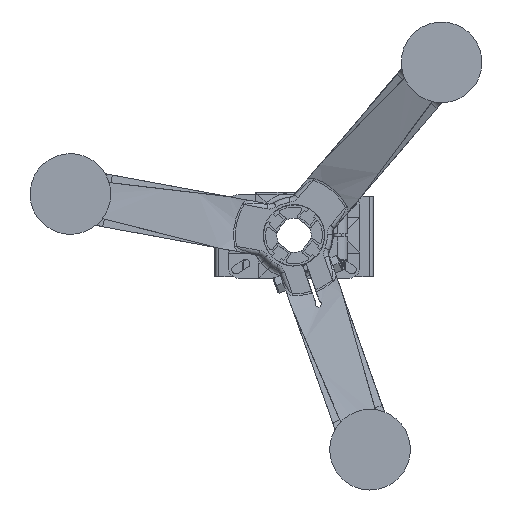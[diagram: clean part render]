
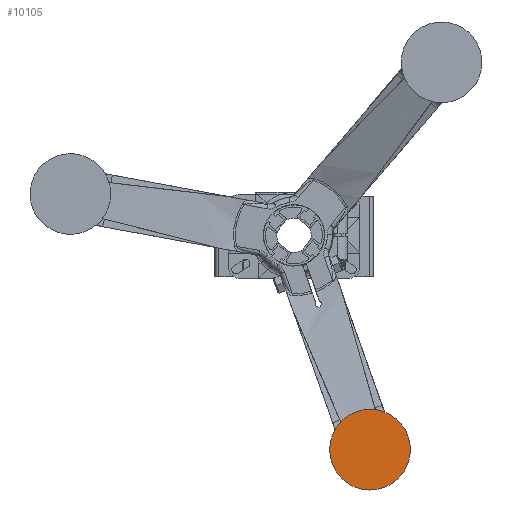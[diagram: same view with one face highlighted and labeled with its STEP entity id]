
A CAD part, front view. The second image highlights one B-rep face of the part: STEP entity #10105.
In plain terms, the highlighted planar face has unit normal (0, -1, 0).
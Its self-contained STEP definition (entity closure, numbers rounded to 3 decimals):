
#10066 = VERTEX_POINT ( 'NONE', #19405 ) ;
#10070 = EDGE_CURVE ( 'NONE', #10066, #10071, #19418, .T. ) ;
#10071 = VERTEX_POINT ( 'NONE', #19413 ) ;
#10104 = EDGE_CURVE ( 'NONE', #10071, #10066, #19652, .T. ) ;
#10105 = ADVANCED_FACE ( 'NONE', ( #19653 ), #19647, .F. ) ;
#10106 = EDGE_LOOP ( 'NONE', ( #10108, #10109 ) ) ;
#10108 = ORIENTED_EDGE ( 'NONE', *, *, #10104, .F. ) ;
#10109 = ORIENTED_EDGE ( 'NONE', *, *, #10070, .F. ) ;
#19405 = CARTESIAN_POINT ( 'NONE',  ( 0., 0., 40. ) ) ;
#19413 = CARTESIAN_POINT ( 'NONE',  ( 0., 0., -40. ) ) ;
#19414 = DIRECTION ( 'NONE',  ( 0., 0., 1. ) ) ;
#19415 = DIRECTION ( 'NONE',  ( 0., 1., 0. ) ) ;
#19416 = CARTESIAN_POINT ( 'NONE',  ( 0., 0., 0. ) ) ;
#19417 = AXIS2_PLACEMENT_3D ( 'NONE', #19416, #19415, #19414 ) ;
#19418 = CIRCLE ( 'NONE', #19417, 40. ) ;
#19642 = DIRECTION ( 'NONE',  ( 0., 0., 1. ) ) ;
#19643 = DIRECTION ( 'NONE',  ( 0., 1., 0. ) ) ;
#19644 = CARTESIAN_POINT ( 'NONE',  ( 0., 0., 0. ) ) ;
#19645 = AXIS2_PLACEMENT_3D ( 'NONE', #19644, #19643, #19642 ) ;
#19647 = PLANE ( 'NONE',  #19645 ) ;
#19648 = DIRECTION ( 'NONE',  ( 0., 0., 1. ) ) ;
#19649 = DIRECTION ( 'NONE',  ( 0., 1., 0. ) ) ;
#19650 = CARTESIAN_POINT ( 'NONE',  ( 0., 0., 0. ) ) ;
#19651 = AXIS2_PLACEMENT_3D ( 'NONE', #19650, #19649, #19648 ) ;
#19652 = CIRCLE ( 'NONE', #19651, 40. ) ;
#19653 = FACE_OUTER_BOUND ( 'NONE', #10106, .T. ) ;
